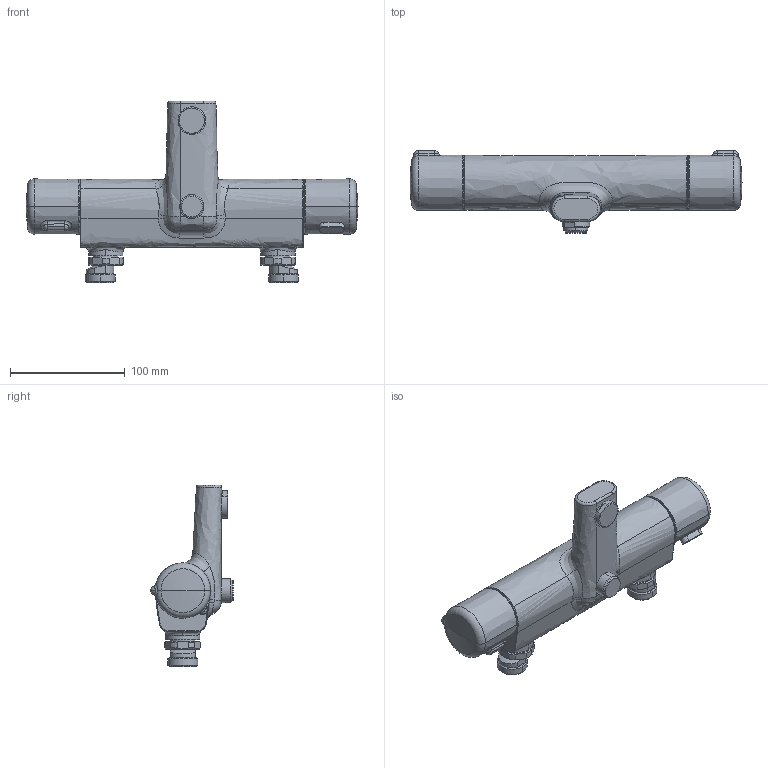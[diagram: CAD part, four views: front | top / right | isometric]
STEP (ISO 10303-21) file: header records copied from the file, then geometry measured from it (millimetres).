
FILE_DESCRIPTION (( 'STEP AP203' ), '1' );
FILE_NAME ('7443L(2023).STEP', '2023-08-02T11:01:38', ( '' ), ( '' ), 'SwSTEP 2.0', 'SolidWorks 2016', '' );
FILE_SCHEMA (( 'CONFIG_CONTROL_DESIGN' ));
Length unit declared in the file: millimetre
Products named in the file (1): 7443L(2023)
Bounding box: 289.57 x 72 x 158.61 mm (x, y, z)
Volume: 774468.1 mm3; surface area: 72368.1 mm2
Topology: 1 solids, 1 shells, 221 faces, 555 edges, 347 vertices
Faces by surface type: cylinder 57, bspline 50, cone 46, plane 44, sphere 14, torus 10
Entity records: 14764 total; most frequent: CARTESIAN_POINT 9807, ORIENTED_EDGE 1102, DIRECTION 927, EDGE_CURVE 551, AXIS2_PLACEMENT_3D 398, VERTEX_POINT 345, EDGE_LOOP 234, CIRCLE 226
